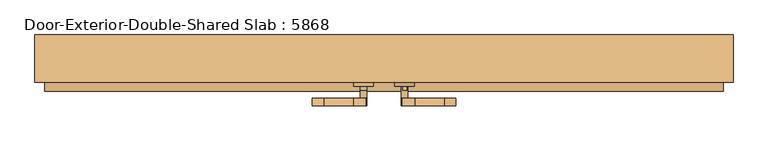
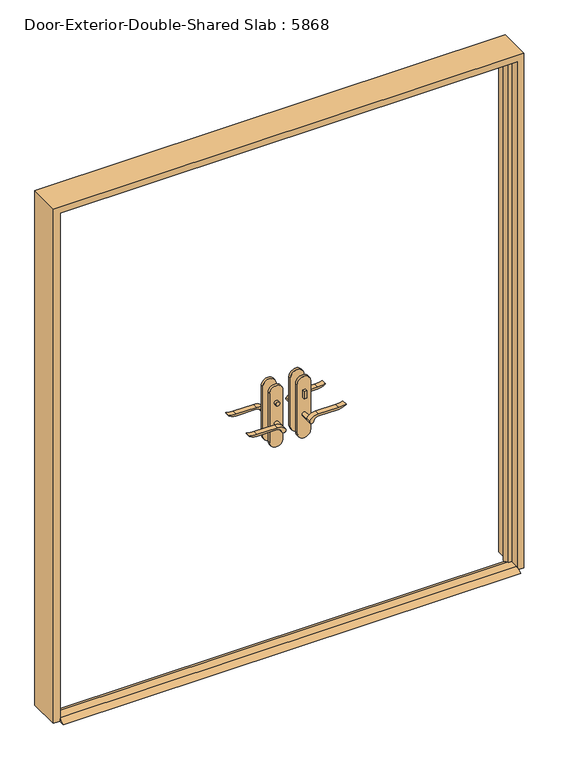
"""IFC4 building model written with IfcOpenShell, lengths in millimetres: door geometry, Door-Exterior-Double-Shared Slab : 5868."""

from ifc_helpers import new_model, si_unit, point, frame, frame_2d, origin, place, context, project, spatial, polyline, circle_curve, trimmed, segment, composite_curve, outline, extrude, faceted_brep, source, transform, mapped, element, save


def door_exterior_double_shared_slab_5868_a01b6ddf(model_context):
    return source(origin(), model_context, "Body", "SolidModel", [
        extrude(outline(polyline([(-19.05, 12.7), (6.35, 0.0), (-79.375, 0.0), (-53.975, 12.7), (-19.05, 12.7)])), frame((-863.6, 0.0, 0.0), z_axis=(1.0, 0.0, 0.0), x_axis=(0.0, 1.0, 0.0)), (0.0, 0.0, 1.0), 1727.2),
        extrude(outline(polyline([(-47.4019111, -2.225), (-47.4019111, -12.225), (-57.4019111, -12.225), (-57.4019111, -2.225), (-47.4019111, -2.225)])), frame((0.0, 0.0, 981.9), z_axis=(0.0, 0.0, 1.0), x_axis=(1.0, 0.0, 0.0)), (0.0, 0.0, 1.0), 30.0),
        extrude(outline(composite_curve([segment(trimmed(circle_curve(frame_2d((996.9, -52.4019111)), 8.0), [point((996.9, -60.4019111))], [point((996.9, -44.4019111))], False, "CARTESIAN"), True, "CONTINUOUS"), segment(trimmed(circle_curve(frame_2d((996.9, -52.4019111)), 8.0), [point((996.9, -44.4019111))], [point((996.9, -60.4019111))], False, "CARTESIAN"), True, "CONTINUOUS")], self_intersect=False)), frame((0.0, -77.15, 0.0), z_axis=(0.0, 1.0, 0.0), x_axis=(0.0, 0.0, 1.0)), (0.0, 0.0, 1.0), 10.0),
        extrude(outline(composite_curve([segment(trimmed(circle_curve(frame_2d((897.1555521, -76.0694241)), 37.2832219), [point((919.0523287, -45.8937749))], [point((934.4, -77.7693445))], False, "CARTESIAN"), True, "CONTINUOUS"), segment(polyline([(934.4, -77.7693445), (934.4, -154.045502)]), True, "CONTINUOUS"), segment(trimmed(circle_curve(frame_2d((1017.6850638, -153.9791202)), 83.2850902), [point((934.4, -154.045502))], [point((939.4, -182.4019111))], True, "CARTESIAN"), True, "CONTINUOUS"), segment(polyline([(939.4, -182.4019111), (936.6135558, -182.4019111)]), True, "CONTINUOUS"), segment(trimmed(circle_curve(frame_2d((986.6709207, -150.4622499)), 59.3791355), [point((936.6135558, -182.4019111))], [point((927.4, -154.045502))], False, "CARTESIAN"), True, "CONTINUOUS"), segment(polyline([(927.4, -154.045502), (927.4, -77.7881013)]), True, "CONTINUOUS"), segment(trimmed(circle_curve(frame_2d((909.2738613, -77.7881013)), 18.1261387), [point((927.4, -77.7881013))], [point((914.4, -60.4019111))], True, "CARTESIAN"), True, "CONTINUOUS"), segment(trimmed(circle_curve(frame_2d((914.4, -52.4019111)), 8.0), [point((914.4, -60.4019111))], [point((919.0523287, -45.8937749))], False, "CARTESIAN"), True, "CONTINUOUS")], self_intersect=False)), frame((0.0, 17.775, 0.0), z_axis=(0.0, 1.0, 0.0), x_axis=(0.0, 0.0, 1.0)), (0.0, 0.0, 1.0), 20.0),
        extrude(outline(composite_curve([segment(trimmed(circle_curve(frame_2d((914.4, -52.4019111)), 8.0), [point((914.3999903, -60.4019111))], [point((919.0523287, -45.8937749))], False, "CARTESIAN"), True, "CONTINUOUS"), segment(trimmed(circle_curve(frame_2d((897.1555521, -76.0694241)), 37.2832219), [point((919.0523287, -45.8937749))], [point((934.4, -77.7693445))], False, "CARTESIAN"), True, "CONTINUOUS"), segment(polyline([(934.4, -77.7693445), (934.4, -154.045502)]), True, "CONTINUOUS"), segment(trimmed(circle_curve(frame_2d((1017.6850638, -153.9791202)), 83.2850902), [point((934.4, -154.045502))], [point((939.4, -182.4019111))], True, "CARTESIAN"), True, "CONTINUOUS"), segment(polyline([(939.4, -182.4019111), (936.6135558, -182.4019111)]), True, "CONTINUOUS"), segment(trimmed(circle_curve(frame_2d((986.6709207, -150.4622499)), 59.3791355), [point((936.6135558, -182.4019111))], [point((927.4, -154.045502))], False, "CARTESIAN"), True, "CONTINUOUS"), segment(polyline([(927.4, -154.045502), (927.4, -77.788099)]), True, "CONTINUOUS"), segment(trimmed(circle_curve(frame_2d((909.2738682, -77.788099)), 18.1261318), [point((927.4, -77.788099))], [point((914.3999903, -60.4019111))], True, "CARTESIAN"), True, "CONTINUOUS")], self_intersect=False)), frame((0.0, -117.15, 0.0), z_axis=(0.0, 1.0, 0.0), x_axis=(0.0, 0.0, 1.0)), (0.0, 0.0, 1.0), 20.0),
        extrude(outline(composite_curve([segment(trimmed(circle_curve(frame_2d((914.4, -52.4019111)), 8.0), [point((914.4, -60.4019111))], [point((914.4, -44.4019111))], False, "CARTESIAN"), True, "CONTINUOUS"), segment(trimmed(circle_curve(frame_2d((914.4, -52.4019111)), 8.0), [point((914.4, -44.4019111))], [point((914.4, -60.4019111))], False, "CARTESIAN"), True, "CONTINUOUS")], self_intersect=False)), frame((0.0, -12.225, 0.0), z_axis=(0.0, 1.0, 0.0), x_axis=(0.0, 0.0, 1.0)), (0.0, 0.0, 1.0), 30.0),
        extrude(outline(composite_curve([segment(trimmed(circle_curve(frame_2d((914.4, -52.4019111)), 8.0), [point((914.4, -60.4019111))], [point((914.4, -44.4019111))], False, "CARTESIAN"), True, "CONTINUOUS"), segment(trimmed(circle_curve(frame_2d((914.4, -52.4019111)), 8.0), [point((914.4, -44.4019111))], [point((914.4, -60.4019111))], False, "CARTESIAN"), True, "CONTINUOUS")], self_intersect=False)), frame((0.0, -97.15, 0.0), z_axis=(0.0, 1.0, 0.0), x_axis=(0.0, 0.0, 1.0)), (0.0, 0.0, 1.0), 30.0),
        extrude(outline(composite_curve([segment(polyline([(844.4, -27.4019111), (1039.4, -27.4019111)]), True, "CONTINUOUS"), segment(trimmed(circle_curve(frame_2d((1039.4, -52.4019111)), 25.0), [point((1039.4, -27.4019111))], [point((1039.4, -77.4019111))], False, "CARTESIAN"), True, "CONTINUOUS"), segment(polyline([(1039.4, -77.4019111), (844.4, -77.4019111)]), True, "CONTINUOUS"), segment(trimmed(circle_curve(frame_2d((844.4, -52.4019111)), 25.0), [point((844.4, -77.4019111))], [point((844.4, -27.4019111))], False, "CARTESIAN"), True, "CONTINUOUS")], self_intersect=False)), frame((0.0, -22.225, 0.0), z_axis=(0.0, 1.0, 0.0), x_axis=(0.0, 0.0, 1.0)), (0.0, 0.0, 1.0), 10.0),
        extrude(outline(composite_curve([segment(polyline([(844.4, -27.4019111), (1039.4, -27.4019111)]), True, "CONTINUOUS"), segment(trimmed(circle_curve(frame_2d((1039.4, -52.4019111)), 25.0), [point((1039.4, -27.4019111))], [point((1039.4, -77.4019111))], False, "CARTESIAN"), True, "CONTINUOUS"), segment(polyline([(1039.4, -77.4019111), (844.4, -77.4019111)]), True, "CONTINUOUS"), segment(trimmed(circle_curve(frame_2d((844.4, -52.4019111)), 25.0), [point((844.4, -77.4019111))], [point((844.4, -27.4019111))], False, "CARTESIAN"), True, "CONTINUOUS")], self_intersect=False)), frame((0.0, -67.15, 0.0), z_axis=(0.0, 1.0, 0.0), x_axis=(0.0, 0.0, 1.0)), (0.0, 0.0, 1.0), 10.0),
        extrude(outline(polyline([(47.3875, -77.15), (47.3875, -67.15), (57.3875, -67.15), (57.3875, -77.15), (47.3875, -77.15)])), frame((0.0, 0.0, 981.9), z_axis=(0.0, 0.0, 1.0), x_axis=(1.0, 0.0, 0.0)), (0.0, 0.0, 1.0), 30.0),
        extrude(outline(composite_curve([segment(trimmed(circle_curve(frame_2d((996.9, 52.3875)), 8.0), [point((996.9, 60.3875))], [point((996.9, 44.3875))], False, "CARTESIAN"), True, "CONTINUOUS"), segment(trimmed(circle_curve(frame_2d((996.9, 52.3875)), 8.0), [point((996.9, 44.3875))], [point((996.9, 60.3875))], False, "CARTESIAN"), True, "CONTINUOUS")], self_intersect=False)), frame((0.0, -12.225, 0.0), z_axis=(0.0, 1.0, 0.0), x_axis=(0.0, 0.0, 1.0)), (0.0, 0.0, 1.0), 10.0),
        extrude(outline(composite_curve([segment(trimmed(circle_curve(frame_2d((914.4, 52.3875)), 8.0), [point((919.0523287, 45.8793637))], [point((914.4, 60.3875))], False, "CARTESIAN"), True, "CONTINUOUS"), segment(trimmed(circle_curve(frame_2d((909.2738613, 77.7736901)), 18.1261387), [point((914.4, 60.3875))], [point((927.4, 77.7736901))], True, "CARTESIAN"), True, "CONTINUOUS"), segment(polyline([(927.4, 77.7736901), (927.4, 154.0310909)]), True, "CONTINUOUS"), segment(trimmed(circle_curve(frame_2d((986.6709207, 150.4478388)), 59.3791355), [point((927.4, 154.0310909))], [point((936.6135558, 182.3875))], False, "CARTESIAN"), True, "CONTINUOUS"), segment(polyline([(936.6135558, 182.3875), (939.4, 182.3875)]), True, "CONTINUOUS"), segment(trimmed(circle_curve(frame_2d((1017.6850638, 153.9647091)), 83.2850902), [point((939.4, 182.3875))], [point((934.4, 154.0310909))], True, "CARTESIAN"), True, "CONTINUOUS"), segment(polyline([(934.4, 154.0310909), (934.4, 77.7549333)]), True, "CONTINUOUS"), segment(trimmed(circle_curve(frame_2d((897.1555521, 76.0550129)), 37.2832219), [point((934.4, 77.7549333))], [point((919.0523287, 45.8793637))], False, "CARTESIAN"), True, "CONTINUOUS")], self_intersect=False)), frame((0.0, -117.15, 0.0), z_axis=(0.0, 1.0, 0.0), x_axis=(0.0, 0.0, 1.0)), (0.0, 0.0, 1.0), 20.0),
        extrude(outline(composite_curve([segment(trimmed(circle_curve(frame_2d((909.2738682, 77.7736878)), 18.1261318), [point((914.3999903, 60.3875))], [point((927.4, 77.7736878))], True, "CARTESIAN"), True, "CONTINUOUS"), segment(polyline([(927.4, 77.7736878), (927.4, 154.0310909)]), True, "CONTINUOUS"), segment(trimmed(circle_curve(frame_2d((986.6709207, 150.4478388)), 59.3791355), [point((927.4, 154.0310909))], [point((936.6135558, 182.3875))], False, "CARTESIAN"), True, "CONTINUOUS"), segment(polyline([(936.6135558, 182.3875), (939.4, 182.3875)]), True, "CONTINUOUS"), segment(trimmed(circle_curve(frame_2d((1017.6850638, 153.9647091)), 83.2850902), [point((939.4, 182.3875))], [point((934.4, 154.0310909))], True, "CARTESIAN"), True, "CONTINUOUS"), segment(polyline([(934.4, 154.0310909), (934.4, 77.7549333)]), True, "CONTINUOUS"), segment(trimmed(circle_curve(frame_2d((897.1555521, 76.0550129)), 37.2832219), [point((934.4, 77.7549333))], [point((919.0523287, 45.8793637))], False, "CARTESIAN"), True, "CONTINUOUS"), segment(trimmed(circle_curve(frame_2d((914.4, 52.3875)), 8.0), [point((919.0523287, 45.8793637))], [point((914.3999903, 60.3875))], False, "CARTESIAN"), True, "CONTINUOUS")], self_intersect=False)), frame((0.0, 17.775, 0.0), z_axis=(0.0, 1.0, 0.0), x_axis=(0.0, 0.0, 1.0)), (0.0, 0.0, 1.0), 20.0),
        extrude(outline(composite_curve([segment(trimmed(circle_curve(frame_2d((914.4, 52.3875)), 8.0), [point((914.4, 60.3875))], [point((914.4, 44.3875))], False, "CARTESIAN"), True, "CONTINUOUS"), segment(trimmed(circle_curve(frame_2d((914.4, 52.3875)), 8.0), [point((914.4, 44.3875))], [point((914.4, 60.3875))], False, "CARTESIAN"), True, "CONTINUOUS")], self_intersect=False)), frame((0.0, -97.15, 0.0), z_axis=(0.0, 1.0, 0.0), x_axis=(0.0, 0.0, 1.0)), (0.0, 0.0, 1.0), 30.0),
        extrude(outline(composite_curve([segment(trimmed(circle_curve(frame_2d((914.4, 52.3875)), 8.0), [point((914.4, 60.3875))], [point((914.4, 44.3875))], False, "CARTESIAN"), True, "CONTINUOUS"), segment(trimmed(circle_curve(frame_2d((914.4, 52.3875)), 8.0), [point((914.4, 44.3875))], [point((914.4, 60.3875))], False, "CARTESIAN"), True, "CONTINUOUS")], self_intersect=False)), frame((0.0, -12.225, 0.0), z_axis=(0.0, 1.0, 0.0), x_axis=(0.0, 0.0, 1.0)), (0.0, 0.0, 1.0), 30.0),
        extrude(outline(composite_curve([segment(trimmed(circle_curve(frame_2d((844.4, 52.3875)), 25.0), [point((844.4, 27.3875))], [point((844.4, 77.3875))], False, "CARTESIAN"), True, "CONTINUOUS"), segment(polyline([(844.4, 77.3875), (1039.4, 77.3875)]), True, "CONTINUOUS"), segment(trimmed(circle_curve(frame_2d((1039.4, 52.3875)), 25.0), [point((1039.4, 77.3875))], [point((1039.4, 27.3875))], False, "CARTESIAN"), True, "CONTINUOUS"), segment(polyline([(1039.4, 27.3875), (844.4, 27.3875)]), True, "CONTINUOUS")], self_intersect=False)), frame((0.0, -67.15, 0.0), z_axis=(0.0, 1.0, 0.0), x_axis=(0.0, 0.0, 1.0)), (0.0, 0.0, 1.0), 10.0),
        extrude(outline(composite_curve([segment(trimmed(circle_curve(frame_2d((844.4, 52.3875)), 25.0), [point((844.4, 27.3875))], [point((844.4, 77.3875))], False, "CARTESIAN"), True, "CONTINUOUS"), segment(polyline([(844.4, 77.3875), (1039.4, 77.3875)]), True, "CONTINUOUS"), segment(trimmed(circle_curve(frame_2d((1039.4, 52.3875)), 25.0), [point((1039.4, 77.3875))], [point((1039.4, 27.3875))], False, "CARTESIAN"), True, "CONTINUOUS"), segment(polyline([(1039.4, 27.3875), (844.4, 27.3875)]), True, "CONTINUOUS")], self_intersect=False)), frame((0.0, -22.225, 0.0), z_axis=(0.0, 1.0, 0.0), x_axis=(0.0, 0.0, 1.0)), (0.0, 0.0, 1.0), 10.0),
        faceted_brep([(889.0, -57.15, 0.0), (863.6, -57.15, 0.0), (863.6, -22.225, 0.0), (850.9, -22.225, 0.0), (850.9, 12.7, 0.0), (863.6, 12.7, 0.0), (863.6, 63.5, 0.0), (889.0, 63.5, 0.0), (889.0, 63.5, 2057.4), (889.0, -57.15, 2057.4), (863.6, 63.5, 2032.0), (-863.6, 63.5, 2032.0), (-863.6, 63.5, 0.0), (-889.0, 63.5, 0.0), (-889.0, 63.5, 2057.4), (863.6, 12.7, 2032.0), (850.9, 12.7, 2019.3), (-850.9, 12.7, 2019.3), (-850.9, 12.7, 0.0), (-863.6, 12.7, 0.0), (-863.6, 12.7, 2032.0), (850.9, -22.225, 2019.3), (863.6, -22.225, 2032.0), (-863.6, -22.225, 2032.0), (-863.6, -22.225, 0.0), (-850.9, -22.225, 0.0), (-850.9, -22.225, 2019.3), (863.6, -57.15, 2032.0), (-889.0, -57.15, 2057.4), (-889.0, -57.15, 0.0), (-863.6, -57.15, 0.0), (-863.6, -57.15, 2032.0)], [[[0, 1, 2, 3, 4, 5, 6, 7]], [[7, 8, 9, 0]], [[6, 10, 11, 12, 13, 14, 8, 7]], [[5, 15, 10, 6]], [[4, 16, 17, 18, 19, 20, 15, 5]], [[3, 21, 16, 4]], [[2, 22, 23, 24, 25, 26, 21, 3]], [[1, 27, 22, 2]], [[0, 9, 28, 29, 30, 31, 27, 1]], [[8, 14, 28, 9]], [[15, 20, 11, 10]], [[21, 26, 17, 16]], [[27, 31, 23, 22]], [[29, 13, 12, 19, 18, 25, 24, 30]], [[14, 13, 29, 28]], [[20, 19, 12, 11]], [[26, 25, 18, 17]], [[31, 30, 24, 23]]]),
    ])


if __name__ == "__main__":
    model = new_model("IFC4")
    model_context = context("Model", 3, world=origin())
    ifc_project = project(units=[si_unit("LENGTHUNIT", "METRE", prefix="MILLI")], contexts=[model_context])
    site = spatial("IfcSite", under=ifc_project)
    building = spatial("IfcBuilding", under=site)
    placement = place(None, origin())
    door_exterior_double_shared_slab_5868_shape = door_exterior_double_shared_slab_5868_a01b6ddf(model_context)
    element("IfcDoor", 1, ObjectType="Door-Exterior-Double-Shared Slab : 5868", at=placement, inside=building, context=model_context, shape_type="MappedRepresentation", body=[
        mapped(door_exterior_double_shared_slab_5868_shape, transform((0.0, 0.0, 0.0), x_axis=(1.0, 0.0, 0.0), y_axis=(0.0, 1.0, 0.0), z_axis=(0.0, 0.0, 1.0))),
    ])
    save(model, "model.ifc")
